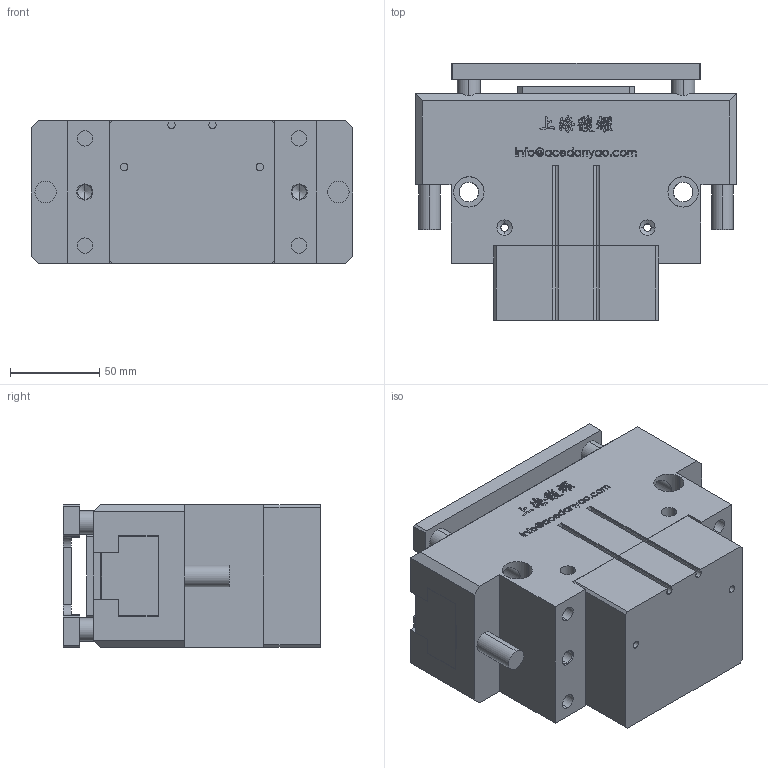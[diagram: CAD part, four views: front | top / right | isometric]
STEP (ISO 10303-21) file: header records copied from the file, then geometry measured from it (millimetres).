
FILE_DESCRIPTION (( 'STEP AP203' ), '1' );
FILE_NAME ('OPP2-180-C1-P-MC&MA-原始檔-組合-W106.04.19.STEP', '2017-04-19T05:09:11', ( 'DanyaoCAD' ), ( '' ), 'SwSTEP 2.0', 'SolidWorks 2016', '' );
FILE_SCHEMA (( 'CONFIG_CONTROL_DESIGN' ));
Length unit declared in the file: millimetre
Products named in the file (6): Coperchio; OPP2-180-C1-P-MC&MA-原始檔-組合-W106.04.19; Corpo; Griffa; Piattello; Fondello
Assembly tree (6 placements, depth 2):
  OPP2-180-C1-P-MC&MA-原始檔-組合-W106.04.19
    Corpo
    Griffa  x2
    Piattello
    Fondello
    Coperchio
Bounding box: 180 x 144 x 80 mm (x, y, z)
Volume: 1398455.9 mm3; surface area: 212225.4 mm2
Topology: 6 solids, 6 shells, 1109 faces, 3078 edges, 2024 vertices
Faces by surface type: bspline 640, plane 301, cylinder 120, cone 48
Entity records: 51784 total; most frequent: CARTESIAN_POINT 27883, ORIENTED_EDGE 5944, EDGE_CURVE 2972, DIRECTION 2790, VERTEX_POINT 1970, VECTOR 1420, LINE 1420, B_SPLINE_CURVE_WITH_KNOTS 1304
